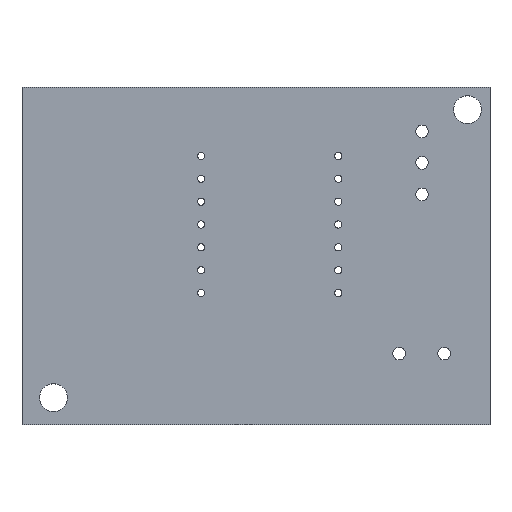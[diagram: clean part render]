
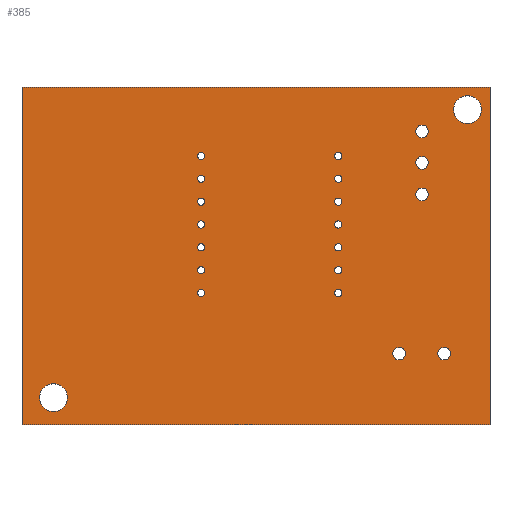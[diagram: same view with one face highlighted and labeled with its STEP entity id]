
A CAD part, top view. The second image highlights one B-rep face of the part: STEP entity #385.
In plain terms, the highlighted planar face has unit normal (0, 0, 1).
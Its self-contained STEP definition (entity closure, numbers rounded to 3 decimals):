
#42 = VERTEX_POINT('',#43);
#43 = CARTESIAN_POINT('',(179.5,-114.,1.6));
#49 = EDGE_CURVE('',#42,#50,#52,.T.);
#50 = VERTEX_POINT('',#51);
#51 = CARTESIAN_POINT('',(127.5,-114.,1.6));
#52 = LINE('',#53,#54);
#53 = CARTESIAN_POINT('',(179.5,-114.,1.6));
#54 = VECTOR('',#55,1.);
#55 = DIRECTION('',(-1.,0.,0.));
#82 = VERTEX_POINT('',#83);
#83 = CARTESIAN_POINT('',(179.5,-76.5,1.6));
#89 = EDGE_CURVE('',#82,#42,#90,.T.);
#90 = LINE('',#91,#92);
#91 = CARTESIAN_POINT('',(179.5,-76.5,1.6));
#92 = VECTOR('',#93,1.);
#93 = DIRECTION('',(0.,-1.,0.));
#111 = EDGE_CURVE('',#50,#112,#114,.T.);
#112 = VERTEX_POINT('',#113);
#113 = CARTESIAN_POINT('',(127.5,-76.5,1.6));
#114 = LINE('',#115,#116);
#115 = CARTESIAN_POINT('',(127.5,-114.,1.6));
#116 = VECTOR('',#117,1.);
#117 = DIRECTION('',(0.,1.,0.));
#385 = ADVANCED_FACE('',(#386,#397,#408,#419,#430,#441,#452,#463,#474,
    #485,#496,#507,#518,#529,#540,#551,#562,#573,#584,#595,#606,#617),
  #628,.F.);
#386 = FACE_BOUND('',#387,.F.);
#387 = EDGE_LOOP('',(#388,#389,#390,#396));
#388 = ORIENTED_EDGE('',*,*,#49,.T.);
#389 = ORIENTED_EDGE('',*,*,#111,.T.);
#390 = ORIENTED_EDGE('',*,*,#391,.T.);
#391 = EDGE_CURVE('',#112,#82,#392,.T.);
#392 = LINE('',#393,#394);
#393 = CARTESIAN_POINT('',(127.5,-76.5,1.6));
#394 = VECTOR('',#395,1.);
#395 = DIRECTION('',(1.,0.,0.));
#396 = ORIENTED_EDGE('',*,*,#89,.T.);
#397 = FACE_BOUND('',#398,.F.);
#398 = EDGE_LOOP('',(#399));
#399 = ORIENTED_EDGE('',*,*,#400,.F.);
#400 = EDGE_CURVE('',#401,#401,#403,.T.);
#401 = VERTEX_POINT('',#402);
#402 = CARTESIAN_POINT('',(174.4,-106.8,1.6));
#403 = CIRCLE('',#404,0.7);
#404 = AXIS2_PLACEMENT_3D('',#405,#406,#407);
#405 = CARTESIAN_POINT('',(174.4,-106.1,1.6));
#406 = DIRECTION('',(-0.,0.,-1.));
#407 = DIRECTION('',(0.,-1.,-0.));
#408 = FACE_BOUND('',#409,.F.);
#409 = EDGE_LOOP('',(#410));
#410 = ORIENTED_EDGE('',*,*,#411,.F.);
#411 = EDGE_CURVE('',#412,#412,#414,.T.);
#412 = VERTEX_POINT('',#413);
#413 = CARTESIAN_POINT('',(169.4,-106.8,1.6));
#414 = CIRCLE('',#415,0.7);
#415 = AXIS2_PLACEMENT_3D('',#416,#417,#418);
#416 = CARTESIAN_POINT('',(169.4,-106.1,1.6));
#417 = DIRECTION('',(-0.,0.,-1.));
#418 = DIRECTION('',(0.,-1.,-0.));
#419 = FACE_BOUND('',#420,.F.);
#420 = EDGE_LOOP('',(#421));
#421 = ORIENTED_EDGE('',*,*,#422,.F.);
#422 = EDGE_CURVE('',#423,#423,#425,.T.);
#423 = VERTEX_POINT('',#424);
#424 = CARTESIAN_POINT('',(162.641,-99.77,1.6));
#425 = CIRCLE('',#426,0.4);
#426 = AXIS2_PLACEMENT_3D('',#427,#428,#429);
#427 = CARTESIAN_POINT('',(162.641,-99.37,1.6));
#428 = DIRECTION('',(-0.,0.,-1.));
#429 = DIRECTION('',(0.,-1.,0.));
#430 = FACE_BOUND('',#431,.F.);
#431 = EDGE_LOOP('',(#432));
#432 = ORIENTED_EDGE('',*,*,#433,.F.);
#433 = EDGE_CURVE('',#434,#434,#436,.T.);
#434 = VERTEX_POINT('',#435);
#435 = CARTESIAN_POINT('',(162.641,-97.23,1.6));
#436 = CIRCLE('',#437,0.4);
#437 = AXIS2_PLACEMENT_3D('',#438,#439,#440);
#438 = CARTESIAN_POINT('',(162.641,-96.83,1.6));
#439 = DIRECTION('',(-0.,0.,-1.));
#440 = DIRECTION('',(0.,-1.,0.));
#441 = FACE_BOUND('',#442,.F.);
#442 = EDGE_LOOP('',(#443));
#443 = ORIENTED_EDGE('',*,*,#444,.F.);
#444 = EDGE_CURVE('',#445,#445,#447,.T.);
#445 = VERTEX_POINT('',#446);
#446 = CARTESIAN_POINT('',(131.,-112.55,1.6));
#447 = CIRCLE('',#448,1.55);
#448 = AXIS2_PLACEMENT_3D('',#449,#450,#451);
#449 = CARTESIAN_POINT('',(131.,-111.,1.6));
#450 = DIRECTION('',(-0.,0.,-1.));
#451 = DIRECTION('',(-0.,-1.,0.));
#452 = FACE_BOUND('',#453,.F.);
#453 = EDGE_LOOP('',(#454));
#454 = ORIENTED_EDGE('',*,*,#455,.F.);
#455 = EDGE_CURVE('',#456,#456,#458,.T.);
#456 = VERTEX_POINT('',#457);
#457 = CARTESIAN_POINT('',(147.406,-99.77,1.6));
#458 = CIRCLE('',#459,0.4);
#459 = AXIS2_PLACEMENT_3D('',#460,#461,#462);
#460 = CARTESIAN_POINT('',(147.406,-99.37,1.6));
#461 = DIRECTION('',(-0.,0.,-1.));
#462 = DIRECTION('',(-0.,-1.,0.));
#463 = FACE_BOUND('',#464,.F.);
#464 = EDGE_LOOP('',(#465));
#465 = ORIENTED_EDGE('',*,*,#466,.F.);
#466 = EDGE_CURVE('',#467,#467,#469,.T.);
#467 = VERTEX_POINT('',#468);
#468 = CARTESIAN_POINT('',(147.406,-97.23,1.6));
#469 = CIRCLE('',#470,0.4);
#470 = AXIS2_PLACEMENT_3D('',#471,#472,#473);
#471 = CARTESIAN_POINT('',(147.406,-96.83,1.6));
#472 = DIRECTION('',(-0.,0.,-1.));
#473 = DIRECTION('',(-0.,-1.,0.));
#474 = FACE_BOUND('',#475,.F.);
#475 = EDGE_LOOP('',(#476));
#476 = ORIENTED_EDGE('',*,*,#477,.F.);
#477 = EDGE_CURVE('',#478,#478,#480,.T.);
#478 = VERTEX_POINT('',#479);
#479 = CARTESIAN_POINT('',(171.95,-89.1,1.6));
#480 = CIRCLE('',#481,0.7);
#481 = AXIS2_PLACEMENT_3D('',#482,#483,#484);
#482 = CARTESIAN_POINT('',(171.95,-88.4,1.6));
#483 = DIRECTION('',(-0.,0.,-1.));
#484 = DIRECTION('',(-0.,-1.,0.));
#485 = FACE_BOUND('',#486,.F.);
#486 = EDGE_LOOP('',(#487));
#487 = ORIENTED_EDGE('',*,*,#488,.F.);
#488 = EDGE_CURVE('',#489,#489,#491,.T.);
#489 = VERTEX_POINT('',#490);
#490 = CARTESIAN_POINT('',(162.641,-94.69,1.6));
#491 = CIRCLE('',#492,0.4);
#492 = AXIS2_PLACEMENT_3D('',#493,#494,#495);
#493 = CARTESIAN_POINT('',(162.641,-94.29,1.6));
#494 = DIRECTION('',(-0.,0.,-1.));
#495 = DIRECTION('',(0.,-1.,0.));
#496 = FACE_BOUND('',#497,.F.);
#497 = EDGE_LOOP('',(#498));
#498 = ORIENTED_EDGE('',*,*,#499,.F.);
#499 = EDGE_CURVE('',#500,#500,#502,.T.);
#500 = VERTEX_POINT('',#501);
#501 = CARTESIAN_POINT('',(162.641,-92.15,1.6));
#502 = CIRCLE('',#503,0.4);
#503 = AXIS2_PLACEMENT_3D('',#504,#505,#506);
#504 = CARTESIAN_POINT('',(162.641,-91.75,1.6));
#505 = DIRECTION('',(-0.,0.,-1.));
#506 = DIRECTION('',(0.,-1.,0.));
#507 = FACE_BOUND('',#508,.F.);
#508 = EDGE_LOOP('',(#509));
#509 = ORIENTED_EDGE('',*,*,#510,.F.);
#510 = EDGE_CURVE('',#511,#511,#513,.T.);
#511 = VERTEX_POINT('',#512);
#512 = CARTESIAN_POINT('',(162.641,-89.61,1.6));
#513 = CIRCLE('',#514,0.4);
#514 = AXIS2_PLACEMENT_3D('',#515,#516,#517);
#515 = CARTESIAN_POINT('',(162.641,-89.21,1.6));
#516 = DIRECTION('',(-0.,0.,-1.));
#517 = DIRECTION('',(0.,-1.,0.));
#518 = FACE_BOUND('',#519,.F.);
#519 = EDGE_LOOP('',(#520));
#520 = ORIENTED_EDGE('',*,*,#521,.F.);
#521 = EDGE_CURVE('',#522,#522,#524,.T.);
#522 = VERTEX_POINT('',#523);
#523 = CARTESIAN_POINT('',(162.641,-87.07,1.6));
#524 = CIRCLE('',#525,0.4);
#525 = AXIS2_PLACEMENT_3D('',#526,#527,#528);
#526 = CARTESIAN_POINT('',(162.641,-86.67,1.6));
#527 = DIRECTION('',(-0.,0.,-1.));
#528 = DIRECTION('',(0.,-1.,0.));
#529 = FACE_BOUND('',#530,.F.);
#530 = EDGE_LOOP('',(#531));
#531 = ORIENTED_EDGE('',*,*,#532,.F.);
#532 = EDGE_CURVE('',#533,#533,#535,.T.);
#533 = VERTEX_POINT('',#534);
#534 = CARTESIAN_POINT('',(171.95,-85.6,1.6));
#535 = CIRCLE('',#536,0.7);
#536 = AXIS2_PLACEMENT_3D('',#537,#538,#539);
#537 = CARTESIAN_POINT('',(171.95,-84.9,1.6));
#538 = DIRECTION('',(-0.,0.,-1.));
#539 = DIRECTION('',(-0.,-1.,0.));
#540 = FACE_BOUND('',#541,.F.);
#541 = EDGE_LOOP('',(#542));
#542 = ORIENTED_EDGE('',*,*,#543,.F.);
#543 = EDGE_CURVE('',#544,#544,#546,.T.);
#544 = VERTEX_POINT('',#545);
#545 = CARTESIAN_POINT('',(177.,-80.55,1.6));
#546 = CIRCLE('',#547,1.55);
#547 = AXIS2_PLACEMENT_3D('',#548,#549,#550);
#548 = CARTESIAN_POINT('',(177.,-79.,1.6));
#549 = DIRECTION('',(-0.,0.,-1.));
#550 = DIRECTION('',(-0.,-1.,0.));
#551 = FACE_BOUND('',#552,.F.);
#552 = EDGE_LOOP('',(#553));
#553 = ORIENTED_EDGE('',*,*,#554,.F.);
#554 = EDGE_CURVE('',#555,#555,#557,.T.);
#555 = VERTEX_POINT('',#556);
#556 = CARTESIAN_POINT('',(171.95,-82.1,1.6));
#557 = CIRCLE('',#558,0.7);
#558 = AXIS2_PLACEMENT_3D('',#559,#560,#561);
#559 = CARTESIAN_POINT('',(171.95,-81.4,1.6));
#560 = DIRECTION('',(-0.,0.,-1.));
#561 = DIRECTION('',(-0.,-1.,0.));
#562 = FACE_BOUND('',#563,.F.);
#563 = EDGE_LOOP('',(#564));
#564 = ORIENTED_EDGE('',*,*,#565,.F.);
#565 = EDGE_CURVE('',#566,#566,#568,.T.);
#566 = VERTEX_POINT('',#567);
#567 = CARTESIAN_POINT('',(162.641,-84.53,1.6));
#568 = CIRCLE('',#569,0.4);
#569 = AXIS2_PLACEMENT_3D('',#570,#571,#572);
#570 = CARTESIAN_POINT('',(162.641,-84.13,1.6));
#571 = DIRECTION('',(-0.,0.,-1.));
#572 = DIRECTION('',(0.,-1.,0.));
#573 = FACE_BOUND('',#574,.F.);
#574 = EDGE_LOOP('',(#575));
#575 = ORIENTED_EDGE('',*,*,#576,.F.);
#576 = EDGE_CURVE('',#577,#577,#579,.T.);
#577 = VERTEX_POINT('',#578);
#578 = CARTESIAN_POINT('',(147.406,-94.69,1.6));
#579 = CIRCLE('',#580,0.4);
#580 = AXIS2_PLACEMENT_3D('',#581,#582,#583);
#581 = CARTESIAN_POINT('',(147.406,-94.29,1.6));
#582 = DIRECTION('',(-0.,0.,-1.));
#583 = DIRECTION('',(-0.,-1.,0.));
#584 = FACE_BOUND('',#585,.F.);
#585 = EDGE_LOOP('',(#586));
#586 = ORIENTED_EDGE('',*,*,#587,.F.);
#587 = EDGE_CURVE('',#588,#588,#590,.T.);
#588 = VERTEX_POINT('',#589);
#589 = CARTESIAN_POINT('',(147.406,-92.15,1.6));
#590 = CIRCLE('',#591,0.4);
#591 = AXIS2_PLACEMENT_3D('',#592,#593,#594);
#592 = CARTESIAN_POINT('',(147.406,-91.75,1.6));
#593 = DIRECTION('',(-0.,0.,-1.));
#594 = DIRECTION('',(-0.,-1.,0.));
#595 = FACE_BOUND('',#596,.F.);
#596 = EDGE_LOOP('',(#597));
#597 = ORIENTED_EDGE('',*,*,#598,.F.);
#598 = EDGE_CURVE('',#599,#599,#601,.T.);
#599 = VERTEX_POINT('',#600);
#600 = CARTESIAN_POINT('',(147.406,-89.61,1.6));
#601 = CIRCLE('',#602,0.4);
#602 = AXIS2_PLACEMENT_3D('',#603,#604,#605);
#603 = CARTESIAN_POINT('',(147.406,-89.21,1.6));
#604 = DIRECTION('',(-0.,0.,-1.));
#605 = DIRECTION('',(-0.,-1.,0.));
#606 = FACE_BOUND('',#607,.F.);
#607 = EDGE_LOOP('',(#608));
#608 = ORIENTED_EDGE('',*,*,#609,.F.);
#609 = EDGE_CURVE('',#610,#610,#612,.T.);
#610 = VERTEX_POINT('',#611);
#611 = CARTESIAN_POINT('',(147.406,-87.07,1.6));
#612 = CIRCLE('',#613,0.4);
#613 = AXIS2_PLACEMENT_3D('',#614,#615,#616);
#614 = CARTESIAN_POINT('',(147.406,-86.67,1.6));
#615 = DIRECTION('',(-0.,0.,-1.));
#616 = DIRECTION('',(-0.,-1.,0.));
#617 = FACE_BOUND('',#618,.F.);
#618 = EDGE_LOOP('',(#619));
#619 = ORIENTED_EDGE('',*,*,#620,.F.);
#620 = EDGE_CURVE('',#621,#621,#623,.T.);
#621 = VERTEX_POINT('',#622);
#622 = CARTESIAN_POINT('',(147.406,-84.53,1.6));
#623 = CIRCLE('',#624,0.4);
#624 = AXIS2_PLACEMENT_3D('',#625,#626,#627);
#625 = CARTESIAN_POINT('',(147.406,-84.13,1.6));
#626 = DIRECTION('',(-0.,0.,-1.));
#627 = DIRECTION('',(-0.,-1.,0.));
#628 = PLANE('',#629);
#629 = AXIS2_PLACEMENT_3D('',#630,#631,#632);
#630 = CARTESIAN_POINT('',(153.5,-95.25,1.6));
#631 = DIRECTION('',(-0.,-0.,-1.));
#632 = DIRECTION('',(-1.,0.,0.));
